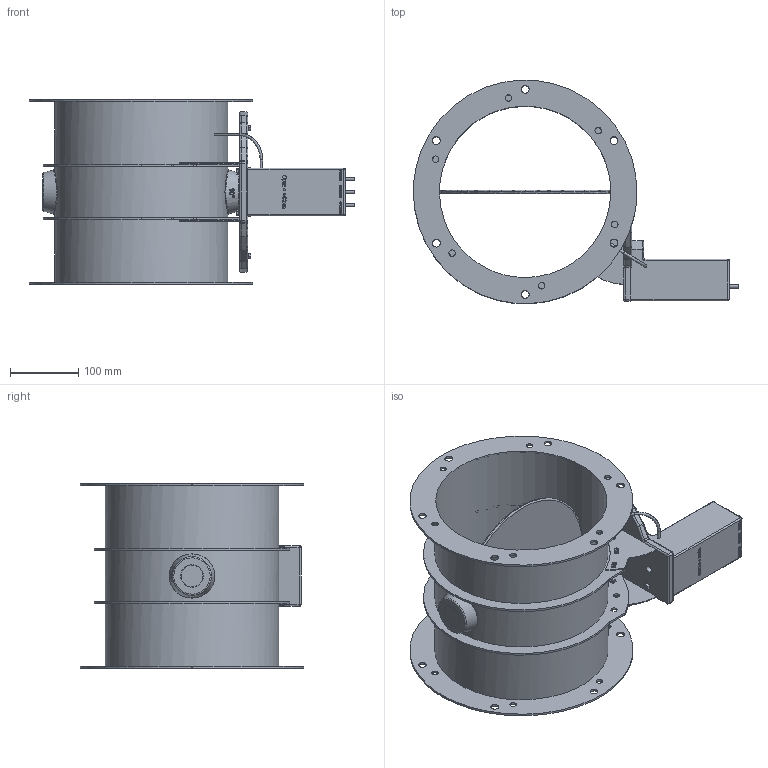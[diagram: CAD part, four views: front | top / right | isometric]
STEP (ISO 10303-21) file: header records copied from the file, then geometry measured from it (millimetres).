
FILE_DESCRIPTION( ('This file contains a STEP AP42 implementation' ,'as created by ZW3D STEP Interface translator.') ,'2;1' );
FILE_NAME( '3D Model-10_2M0 Butterfly Body with drive.stp' ,'211115. 92022', (''), ('ZWCAD Software Co.'), 'Version 1.0', 'ZW3D to STEP translator', '' );
FILE_SCHEMA(('CONFIG_CONTROL_DESIGN'));
Length unit declared in the file: millimetre
Products named in the file (4): 0; 0_Maketa 3D 10"; Futro na ložisko 10"; Hadièka
Assembly tree (3 placements, depth 2):
  0
  0_Maketa 3D 10"
    Futro na ložisko 10"  x2
    Hadièka
Bounding box: 475.81 x 326.64 x 270 mm (x, y, z)
Volume: 1985905 mm3; surface area: 885629.9 mm2
Topology: 8 solids, 8 shells, 857 faces, 2256 edges, 1581 vertices
Faces by surface type: bspline 857
Entity records: 28031 total; most frequent: CARTESIAN_POINT 15639, ORIENTED_EDGE 4054, EDGE_CURVE 2027, B_SPLINE_CURVE_WITH_KNOTS 1648, VERTEX_POINT 1311, EDGE_LOOP 946, FACE_OUTER_BOUND 799, ADVANCED_FACE 799
